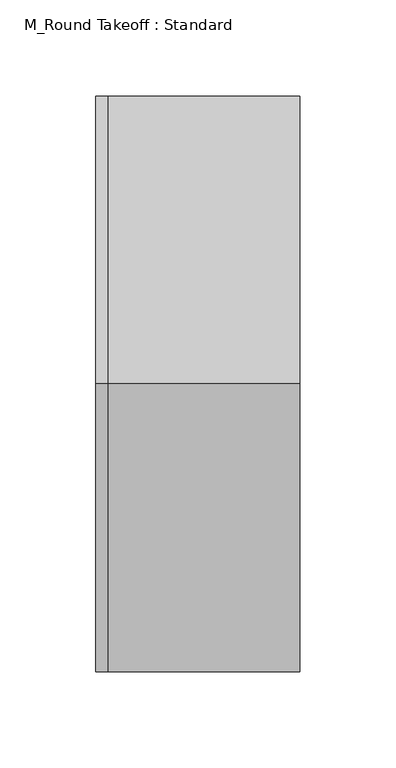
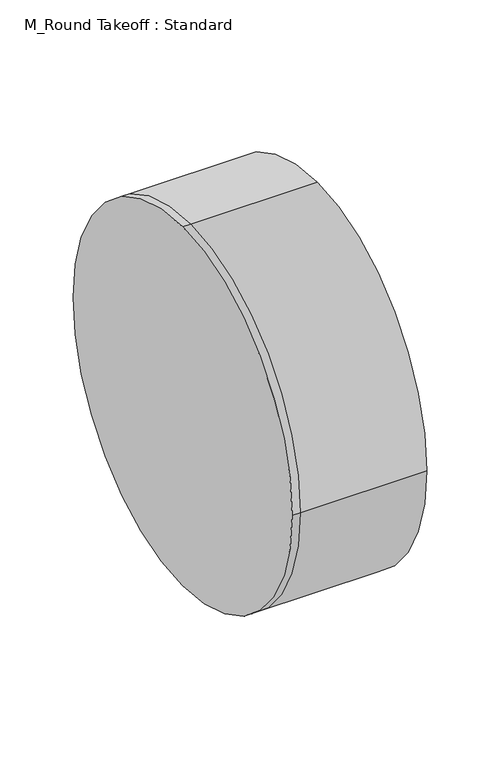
"""IFC4 building model written with IfcOpenShell, lengths in millimetres: duct fitting geometry, M_Round Takeoff : Standard."""

import ifcopenshell
import ifcopenshell.guid

model = None  # the IFC model being written
_history = None  # IfcOwnerHistory: only IFC2X3 demands one
_inside = {}  # id of a spatial element -> (the spatial element, [elements in it])
_under = {}  # id of a project, library or spatial element -> (it, [spatial elements below it])
_declared = {}  # id of a project -> (the project, [libraries it declares])
_typed = {}  # id of a type object -> (the type object, [elements of that type])
_made_of = {}  # id of a material, layer set ... -> (it, [elements and type objects made of it])


def new_model(schema):
    """Start an empty IFC model of exactly this schema.

    Asked for "IFC4X3", IfcOpenShell would pick the latest addendum, in which some entities
    have other attributes; the version numbers below select the first issue.
    IFC2X3 requires an IfcOwnerHistory on every rooted entity: one is made here for all.
    """
    global model, _history
    if schema == "IFC4X3":
        model = ifcopenshell.file(schema_version=(4, 3, 0, 0))
    else:
        model = ifcopenshell.file(schema=schema)
    _inside.clear()
    _under.clear()
    _declared.clear()
    _typed.clear()
    _made_of.clear()
    _history = None
    if model.schema == "IFC2X3":
        org = make("IfcOrganization", Name="unknown")
        user = make(
            "IfcPersonAndOrganization",
            ThePerson=make("IfcPerson", FamilyName="unknown"),
            TheOrganization=org,
        )
        app = make(
            "IfcApplication",
            ApplicationDeveloper=org,
            Version="unknown",
            ApplicationFullName="unknown",
            ApplicationIdentifier="unknown",
        )
        _history = make(
            "IfcOwnerHistory",
            OwningUser=user,
            OwningApplication=app,
            ChangeAction="ADDED",
            CreationDate=0,
        )
    return model


def make(cls, **values):
    """One entity of the class cls with the attributes given. An attribute that is None is left unset."""
    return model.create_entity(
        cls, **{name: value for name, value in values.items() if value is not None}
    )


def rooted(cls, **values):
    """An entity with a GlobalId (a new one), such as an element, a storey or a relation."""
    return make(cls, GlobalId=ifcopenshell.guid.new(), OwnerHistory=_history, **values)


def si_unit(unit_type, name, prefix=None):
    """IfcSIUnit, for example si_unit("LENGTHUNIT", "METRE", prefix="MILLI")."""
    return make("IfcSIUnit", UnitType=unit_type, Prefix=prefix, Name=name)


def assignment(units):
    """IfcUnitAssignment: the units of a project."""
    return None if units is None else make("IfcUnitAssignment", Units=units)


def point(xyz):
    """IfcCartesianPoint."""
    return None if xyz is None else make("IfcCartesianPoint", Coordinates=xyz)


def direction(xyz):
    """IfcDirection."""
    return None if xyz is None else make("IfcDirection", DirectionRatios=xyz)


def frame(location, z_axis=None, x_axis=None):
    """IfcAxis2Placement3D, a coordinate frame: its origin and axes. An axis left out is left unset."""
    return make(
        "IfcAxis2Placement3D",
        Location=point(location),
        Axis=direction(z_axis),
        RefDirection=direction(x_axis),
    )


def origin():
    """The frame at (0, 0, 0) with its axes left unset."""
    return frame((0.0, 0.0, 0.0))


def place(relative_to, where):
    """IfcLocalPlacement: puts the frame where relative to a parent placement (None: the world)."""
    return make(
        "IfcLocalPlacement", PlacementRelTo=relative_to, RelativePlacement=where
    )


def context(
    kind, dimensions, precision=None, world=None, true_north=None, identifier=None
):
    """IfcGeometricRepresentationContext, for example the 3D "Model" context."""
    return make(
        "IfcGeometricRepresentationContext",
        ContextIdentifier=identifier,
        ContextType=kind,
        CoordinateSpaceDimension=dimensions,
        Precision=precision,
        WorldCoordinateSystem=world,
        TrueNorth=true_north,
    )


def project(units=None, contexts=None):
    """IfcProject with its units and contexts."""
    return rooted(
        "IfcProject",
        Name="project",
        RepresentationContexts=contexts,
        UnitsInContext=assignment(units),
    )


def spatial(cls, under=None, at=None, **own):
    """A site, building, storey or space (cls), placed at a placement, below another one or the project."""
    s = rooted(cls, ObjectPlacement=at, **own)
    if under is not None:
        _under.setdefault(under.id(), (under, []))[1].append(s)
    return s


def circle_curve(where, radius):
    """IfcCircle in the frame where."""
    return make("IfcCircle", Position=where, Radius=radius)


def shape(context_of_items, identifier, shape_type, items):
    """IfcShapeRepresentation: the items that make up one representation, for example the "Body"."""
    return make(
        "IfcShapeRepresentation",
        ContextOfItems=context_of_items,
        RepresentationIdentifier=identifier,
        RepresentationType=shape_type,
        Items=items,
    )


def source(mapping_origin, context_of_items, identifier, shape_type, items):
    """IfcRepresentationMap: a shape defined once, which mapped items show again and again."""
    return make(
        "IfcRepresentationMap",
        MappingOrigin=mapping_origin,
        MappedRepresentation=shape(context_of_items, identifier, shape_type, items),
    )


def transform(
    local_origin,
    x_axis=None,
    y_axis=None,
    z_axis=None,
    scale=None,
    scale2=None,
    scale3=None,
    uniform=True,
):
    """IfcCartesianTransformationOperator3D, or its non-uniform kind. x_axis, y_axis, z_axis: its Axis1, 2, 3."""
    if uniform:
        return make(
            "IfcCartesianTransformationOperator3D",
            Axis1=direction(x_axis),
            Axis2=direction(y_axis),
            LocalOrigin=point(local_origin),
            Scale=scale,
            Axis3=direction(z_axis),
        )
    return make(
        "IfcCartesianTransformationOperator3DnonUniform",
        Axis1=direction(x_axis),
        Axis2=direction(y_axis),
        LocalOrigin=point(local_origin),
        Scale=scale,
        Axis3=direction(z_axis),
        Scale2=scale2,
        Scale3=scale3,
    )


def mapped(mapping_source, mapping_target):
    """IfcMappedItem: shows the shape of a source again, moved by a transform."""
    return make(
        "IfcMappedItem", MappingSource=mapping_source, MappingTarget=mapping_target
    )


def made_of(thing, what):
    """Note that an element or type object is made of a material, layer set ...; save() writes the relation."""
    if what is not None:
        _made_of.setdefault(what.id(), (what, []))[1].append(thing)
    return thing


def element(
    cls,
    number,
    at=None,
    inside=None,
    cuts=None,
    type_object=None,
    material=None,
    context=None,
    identifier="Body",
    shape_type=None,
    held_by="IfcProductDefinitionShape",
    body=None,
    shapes=None,
    **own,
):
    """One element of the class cls, such as IfcWall. Its Tag is "e" and its number.

    at: its placement. inside: the storey or other place that contains it. cuts: it is an
    opening in that element (IfcRelVoidsElement). A single representation is given by context,
    identifier, shape_type and body (its items); several are given by shapes. held_by: the class
    of the entity that holds the representations. save() writes the other relations.
    """
    e = rooted(cls, Tag="e%d" % number, ObjectPlacement=at, **own)
    if body is not None:
        shapes = [shape(context, identifier, shape_type, body)]
    if shapes is not None:
        e.Representation = make(held_by, Representations=shapes)
    if inside is not None:
        _inside.setdefault(inside.id(), (inside, []))[1].append(e)
    if cuts is not None:
        rooted(
            "IfcRelVoidsElement", RelatingBuildingElement=cuts, RelatedOpeningElement=e
        )
    if type_object is not None:
        _typed.setdefault(type_object.id(), (type_object, []))[1].append(e)
    return made_of(e, material)


def aggregate(whole, parts):
    """IfcRelAggregates: a whole, such as a stair, and the parts it consists of."""
    return rooted("IfcRelAggregates", RelatingObject=whole, RelatedObjects=parts)


def save(model, path):
    """Write the relations noted so far, then the file.

    IfcRelAggregates (storeys below a building ...), IfcRelContainedInSpatialStructure (elements
    in a storey), IfcRelDefinesByType, IfcRelAssociatesMaterial and IfcRelDeclares: one each for
    every whole, place, type object, material and project.
    """
    for whole, parts in _under.values():
        aggregate(whole, parts)
    for where, things in _inside.values():
        rooted(
            "IfcRelContainedInSpatialStructure",
            RelatedElements=things,
            RelatingStructure=where,
        )
    for kind, things in _typed.values():
        rooted("IfcRelDefinesByType", RelatedObjects=things, RelatingType=kind)
    for what, things in _made_of.values():
        rooted("IfcRelAssociatesMaterial", RelatedObjects=things, RelatingMaterial=what)
    for by, libraries in _declared.values():
        rooted("IfcRelDeclares", RelatingContext=by, RelatedDefinitions=libraries)
    model.write(path)


def plane_surface(at):
    """IfcPlane: the flat surface through the origin of the frame at, square to its z axis."""
    return make("IfcPlane", Position=at)


def cylinder_surface(at, radius):
    """IfcCylindricalSurface: all points at the distance radius from the z axis of the frame at."""
    return make("IfcCylindricalSurface", Position=at, Radius=radius)


def advanced_brep(points, edges, surfaces, faces):
    """IfcAdvancedBrep: a solid bounded by faces that lie on surfaces and meet in shared edges.

    An edge is (start, end): straight between two places in points (the first is 0);
    or (start, end, curve); or (start, end, curve, False) where it runs against its curve.
    A face is (place in surfaces, loops), or (place, loops, False) where it looks against
    its surface's normal. A loop lists edges by number (the first is 1), with a minus sign
    where the edge is run from its end to its start. The first loop is the outer one.
    """
    corners = [point(p) for p in points]
    vertices = [make("IfcVertexPoint", VertexGeometry=c) for c in corners]
    made = []
    for start, end, *more in edges:
        made.append(
            make(
                "IfcEdgeCurve",
                EdgeStart=vertices[start],
                EdgeEnd=vertices[end],
                EdgeGeometry=more[0] if more else make("IfcPolyline", Points=[corners[start], corners[end]]),
                SameSense=more[1] if len(more) > 1 else True,
            )
        )
    hull = []
    for where, loops, *sense in faces:
        bounds = []
        for j, loop in enumerate(loops):
            ring = [make("IfcOrientedEdge", EdgeElement=made[abs(k) - 1], Orientation=k > 0) for k in loop]
            bounds.append(
                make(
                    "IfcFaceOuterBound" if j == 0 else "IfcFaceBound",
                    Bound=make("IfcEdgeLoop", EdgeList=ring),
                    Orientation=True,
                )
            )
        hull.append(make("IfcAdvancedFace", Bounds=bounds, FaceSurface=surfaces[where], SameSense=sense[0] if sense else True))
    return make("IfcAdvancedBrep", Outer=make("IfcClosedShell", CfsFaces=hull))


def m_round_takeoff_standard_7aadd90a(model_context):
    return source(origin(), model_context, "Body", "AdvancedBrep", [
        advanced_brep(
        [(-6.096, 0.0, 150.0), (-6.096, 150.0, 0.0), (-6.096, 0.0, -150.0), (-6.096, -150.0, 0.0), (0.0, -150.0, 0.0), (0.0, 0.0, 150.0), (0.0, 0.0, -150.0), (0.0, 150.0, 0.0), (100.0, 0.0, 150.0), (100.0, -150.0, 0.0), (100.0, 0.0, -150.0), (100.0, 150.0, 0.0)],
        [
            (0, 1, circle_curve(frame((-6.096, 0.0, 0.0), z_axis=(-1.0, 0.0, 0.0), x_axis=(0.0, -1.0, 0.0)), 150.0)),
            (1, 2, circle_curve(frame((-6.096, 0.0, 0.0), z_axis=(-1.0, 0.0, 0.0), x_axis=(0.0, -1.0, 0.0)), 150.0)),
            (2, 3, circle_curve(frame((-6.096, 0.0, 0.0), z_axis=(-1.0, 0.0, 0.0), x_axis=(0.0, -1.0, 0.0)), 150.0)),
            (3, 0, circle_curve(frame((-6.096, 0.0, 0.0), z_axis=(-1.0, 0.0, 0.0), x_axis=(0.0, -1.0, 0.0)), 150.0)),
            (3, 4),
            (4, 5, circle_curve(frame((0.0, 0.0, 0.0), z_axis=(-1.0, 0.0, 0.0), x_axis=(0.0, -1.0, 0.0)), 150.0)),
            (5, 0),
            (2, 6),
            (6, 4, circle_curve(frame((0.0, 0.0, 0.0), z_axis=(-1.0, 0.0, 0.0), x_axis=(0.0, -1.0, 0.0)), 150.0)),
            (1, 7),
            (7, 6, circle_curve(frame((0.0, 0.0, 0.0), z_axis=(-1.0, 0.0, 0.0), x_axis=(0.0, -1.0, 0.0)), 150.0)),
            (5, 7, circle_curve(frame((0.0, 0.0, 0.0), z_axis=(-1.0, 0.0, 0.0), x_axis=(0.0, -1.0, 0.0)), 150.0)),
            (8, 9, circle_curve(frame((100.0, 0.0, 0.0), z_axis=(1.0, 0.0, 0.0), x_axis=(0.0, -1.0, 0.0)), 150.0)),
            (9, 10, circle_curve(frame((100.0, 0.0, 0.0), z_axis=(1.0, 0.0, 0.0), x_axis=(0.0, -1.0, 0.0)), 150.0)),
            (10, 11, circle_curve(frame((100.0, 0.0, 0.0), z_axis=(1.0, 0.0, 0.0), x_axis=(0.0, -1.0, 0.0)), 150.0)),
            (11, 8, circle_curve(frame((100.0, 0.0, 0.0), z_axis=(1.0, 0.0, 0.0), x_axis=(0.0, -1.0, 0.0)), 150.0)),
            (8, 5),
            (4, 9),
            (6, 10),
            (7, 11),
        ],
        [
            plane_surface(frame((-6.096, 0.0, 0.0), z_axis=(-1.0, 0.0, 0.0), x_axis=(0.0, 0.0, 1.0))),
            cylinder_surface(frame((-6.096, 0.0, 0.0), z_axis=(-1.0, 0.0, 0.0), x_axis=(0.0, -1.0, 0.0)), 150.0),
            plane_surface(frame((100.0, 0.0, 0.0), z_axis=(1.0, 0.0, 0.0), x_axis=(0.0, 0.0, 1.0))),
            cylinder_surface(frame((0.0, 0.0, 0.0), z_axis=(-1.0, 0.0, 0.0), x_axis=(0.0, -1.0, 0.0)), 150.0),
        ],
        [
            (0, [[1, 2, 3, 4]]),
            (1, [[5, 6, 7, -4]]),
            (1, [[8, 9, -5, -3]]),
            (1, [[10, 11, -8, -2]]),
            (1, [[-7, 12, -10, -1]]),
            (2, [[13, 14, 15, 16]]),
            (3, [[17, -6, 18, -13]]),
            (3, [[-18, -9, 19, -14]]),
            (3, [[-19, -11, 20, -15]]),
            (3, [[-20, -12, -17, -16]]),
        ],
    ),
        advanced_brep(
        [(100.0, 0.0, 150.0), (100.0, -150.0, 0.0), (100.0, 0.0, -150.0), (100.0, 150.0, 0.0), (0.0, 0.0, 150.0), (0.0, -150.0, 0.0), (0.0, 0.0, -150.0), (0.0, 150.0, 0.0), (-6.096, 0.0, 150.0), (-6.096, 150.0, 0.0), (-6.096, 0.0, -150.0), (-6.096, -150.0, 0.0)],
        [
            (0, 1, circle_curve(frame((100.0, 0.0, 0.0), z_axis=(1.0, 0.0, 0.0), x_axis=(0.0, -1.0, 0.0)), 150.0)),
            (1, 2, circle_curve(frame((100.0, 0.0, 0.0), z_axis=(1.0, 0.0, 0.0), x_axis=(0.0, -1.0, 0.0)), 150.0)),
            (2, 3, circle_curve(frame((100.0, 0.0, 0.0), z_axis=(1.0, 0.0, 0.0), x_axis=(0.0, -1.0, 0.0)), 150.0)),
            (3, 0, circle_curve(frame((100.0, 0.0, 0.0), z_axis=(1.0, 0.0, 0.0), x_axis=(0.0, -1.0, 0.0)), 150.0)),
            (0, 4),
            (4, 5, circle_curve(frame((0.0, 0.0, 0.0), z_axis=(1.0, 0.0, 0.0), x_axis=(0.0, -1.0, 0.0)), 150.0)),
            (5, 1),
            (5, 6, circle_curve(frame((0.0, 0.0, 0.0), z_axis=(1.0, 0.0, 0.0), x_axis=(0.0, -1.0, 0.0)), 150.0)),
            (6, 2),
            (6, 7, circle_curve(frame((0.0, 0.0, 0.0), z_axis=(1.0, 0.0, 0.0), x_axis=(0.0, -1.0, 0.0)), 150.0)),
            (7, 3),
            (7, 4, circle_curve(frame((0.0, 0.0, 0.0), z_axis=(1.0, 0.0, 0.0), x_axis=(0.0, -1.0, 0.0)), 150.0)),
            (8, 9, circle_curve(frame((-6.096, 0.0, 0.0), z_axis=(-1.0, 0.0, 0.0), x_axis=(0.0, -1.0, 0.0)), 150.0)),
            (9, 10, circle_curve(frame((-6.096, 0.0, 0.0), z_axis=(-1.0, 0.0, 0.0), x_axis=(0.0, -1.0, 0.0)), 150.0)),
            (10, 11, circle_curve(frame((-6.096, 0.0, 0.0), z_axis=(-1.0, 0.0, 0.0), x_axis=(0.0, -1.0, 0.0)), 150.0)),
            (11, 8, circle_curve(frame((-6.096, 0.0, 0.0), z_axis=(-1.0, 0.0, 0.0), x_axis=(0.0, -1.0, 0.0)), 150.0)),
            (11, 5),
            (4, 8),
            (10, 6),
            (9, 7),
        ],
        [
            plane_surface(frame((100.0, 0.0, 0.0), z_axis=(1.0, 0.0, 0.0), x_axis=(0.0, 0.0, 1.0))),
            cylinder_surface(frame((0.0, 0.0, 0.0), z_axis=(-1.0, 0.0, 0.0), x_axis=(0.0, -1.0, 0.0)), 150.0),
            plane_surface(frame((-6.096, 0.0, 0.0), z_axis=(-1.0, 0.0, 0.0), x_axis=(0.0, 0.0, 1.0))),
            cylinder_surface(frame((-6.096, 0.0, 0.0), z_axis=(-1.0, 0.0, 0.0), x_axis=(0.0, -1.0, 0.0)), 150.0),
        ],
        [
            (0, [[1, 2, 3, 4]]),
            (1, [[5, 6, 7, -1]]),
            (1, [[-7, 8, 9, -2]]),
            (1, [[-9, 10, 11, -3]]),
            (1, [[-11, 12, -5, -4]]),
            (2, [[13, 14, 15, 16]]),
            (3, [[17, -6, 18, -16]]),
            (3, [[19, -8, -17, -15]]),
            (3, [[20, -10, -19, -14]]),
            (3, [[-18, -12, -20, -13]]),
        ],
    ),
        advanced_brep(
        [(-6.096, 0.0, 150.0), (-6.096, 150.0, 0.0), (-6.096, 0.0, -150.0), (-6.096, -150.0, 0.0), (0.0, -150.0, 0.0), (0.0, 0.0, 150.0), (0.0, 0.0, -150.0), (0.0, 150.0, 0.0), (100.0, 0.0, 150.0), (100.0, -150.0, 0.0), (100.0, 0.0, -150.0), (100.0, 150.0, 0.0)],
        [
            (0, 1, circle_curve(frame((-6.096, 0.0, 0.0), z_axis=(-1.0, 0.0, 0.0), x_axis=(0.0, -1.0, 0.0)), 150.0)),
            (1, 2, circle_curve(frame((-6.096, 0.0, 0.0), z_axis=(-1.0, 0.0, 0.0), x_axis=(0.0, -1.0, 0.0)), 150.0)),
            (2, 3, circle_curve(frame((-6.096, 0.0, 0.0), z_axis=(-1.0, 0.0, 0.0), x_axis=(0.0, -1.0, 0.0)), 150.0)),
            (3, 0, circle_curve(frame((-6.096, 0.0, 0.0), z_axis=(-1.0, 0.0, 0.0), x_axis=(0.0, -1.0, 0.0)), 150.0)),
            (3, 4),
            (4, 5, circle_curve(frame((0.0, 0.0, 0.0), z_axis=(-1.0, 0.0, 0.0), x_axis=(0.0, -1.0, 0.0)), 150.0)),
            (5, 0),
            (2, 6),
            (6, 4, circle_curve(frame((0.0, 0.0, 0.0), z_axis=(-1.0, 0.0, 0.0), x_axis=(0.0, -1.0, 0.0)), 150.0)),
            (1, 7),
            (7, 6, circle_curve(frame((0.0, 0.0, 0.0), z_axis=(-1.0, 0.0, 0.0), x_axis=(0.0, -1.0, 0.0)), 150.0)),
            (5, 7, circle_curve(frame((0.0, 0.0, 0.0), z_axis=(-1.0, 0.0, 0.0), x_axis=(0.0, -1.0, 0.0)), 150.0)),
            (8, 9, circle_curve(frame((100.0, 0.0, 0.0), z_axis=(1.0, 0.0, 0.0), x_axis=(0.0, -1.0, 0.0)), 150.0)),
            (9, 10, circle_curve(frame((100.0, 0.0, 0.0), z_axis=(1.0, 0.0, 0.0), x_axis=(0.0, -1.0, 0.0)), 150.0)),
            (10, 11, circle_curve(frame((100.0, 0.0, 0.0), z_axis=(1.0, 0.0, 0.0), x_axis=(0.0, -1.0, 0.0)), 150.0)),
            (11, 8, circle_curve(frame((100.0, 0.0, 0.0), z_axis=(1.0, 0.0, 0.0), x_axis=(0.0, -1.0, 0.0)), 150.0)),
            (8, 5),
            (4, 9),
            (6, 10),
            (7, 11),
        ],
        [
            plane_surface(frame((-6.096, 0.0, 0.0), z_axis=(-1.0, 0.0, 0.0), x_axis=(0.0, 0.0, 1.0))),
            cylinder_surface(frame((-6.096, 0.0, 0.0), z_axis=(-1.0, 0.0, 0.0), x_axis=(0.0, -1.0, 0.0)), 150.0),
            plane_surface(frame((100.0, 0.0, 0.0), z_axis=(1.0, 0.0, 0.0), x_axis=(0.0, 0.0, 1.0))),
            cylinder_surface(frame((0.0, 0.0, 0.0), z_axis=(-1.0, 0.0, 0.0), x_axis=(0.0, -1.0, 0.0)), 150.0),
        ],
        [
            (0, [[1, 2, 3, 4]]),
            (1, [[5, 6, 7, -4]]),
            (1, [[8, 9, -5, -3]]),
            (1, [[10, 11, -8, -2]]),
            (1, [[-7, 12, -10, -1]]),
            (2, [[13, 14, 15, 16]]),
            (3, [[17, -6, 18, -13]]),
            (3, [[-18, -9, 19, -14]]),
            (3, [[-19, -11, 20, -15]]),
            (3, [[-20, -12, -17, -16]]),
        ],
    ),
    ])


if __name__ == "__main__":
    model = new_model("IFC4")
    model_context = context("Model", 3, world=origin())
    ifc_project = project(units=[si_unit("LENGTHUNIT", "METRE", prefix="MILLI")], contexts=[model_context])
    site = spatial("IfcSite", under=ifc_project)
    building = spatial("IfcBuilding", under=site)
    placement = place(None, origin())
    m_round_takeoff_standard_shape = m_round_takeoff_standard_7aadd90a(model_context)
    element("IfcDuctFitting", 1, ObjectType="M_Round Takeoff : Standard", at=placement, inside=building, context=model_context, shape_type="MappedRepresentation", body=[
        mapped(m_round_takeoff_standard_shape, transform((0.0, 0.0, 0.0), x_axis=(1.0, 0.0, 0.0), y_axis=(0.0, 1.0, 0.0), z_axis=(0.0, 0.0, 1.0))),
    ])
    save(model, "model.ifc")
